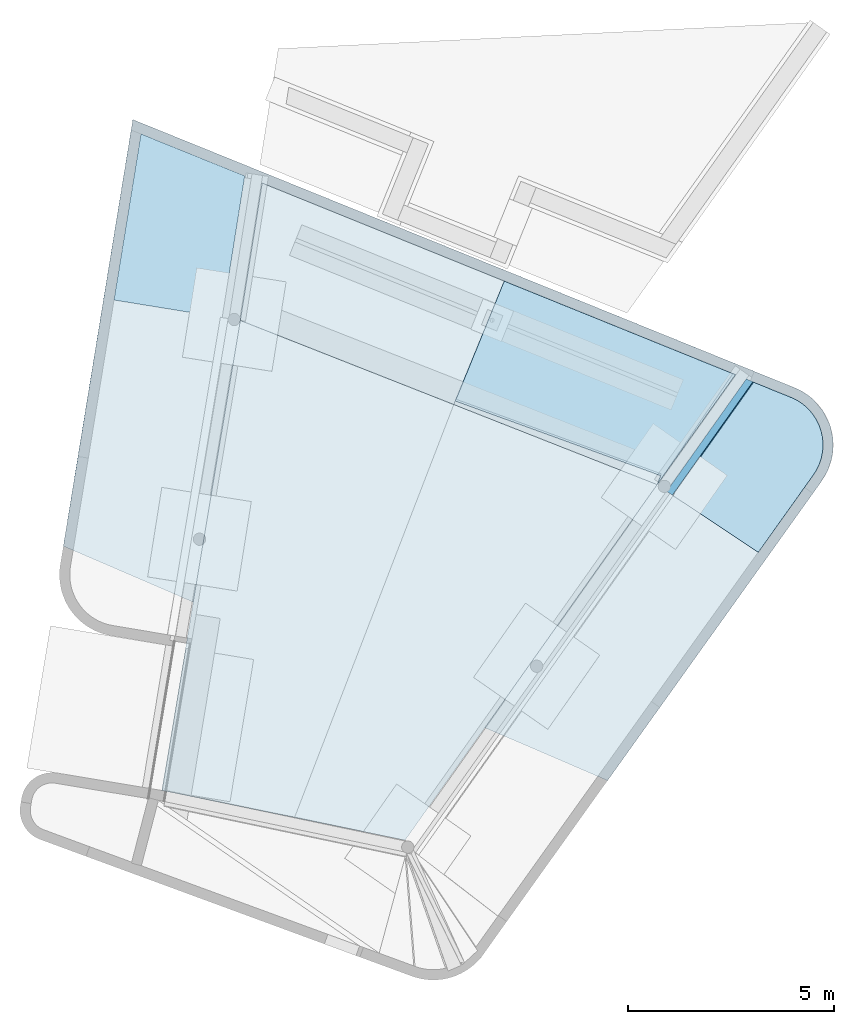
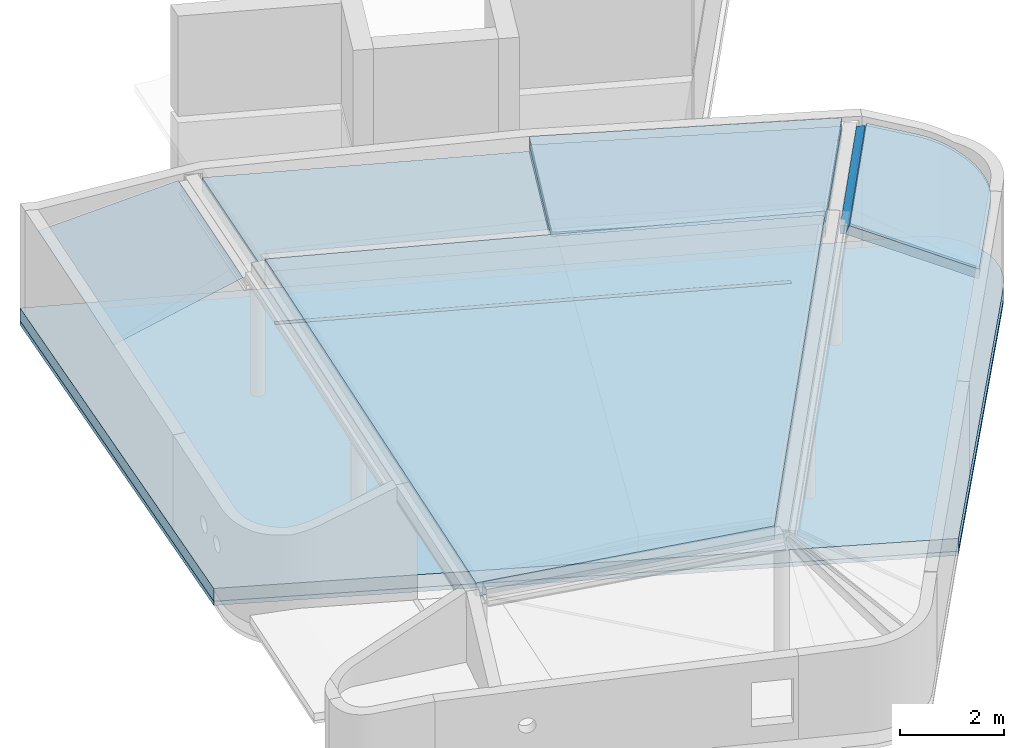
# One storey, part 5 of 8: 9 plates, 5 slabs.
"""IFC2X3 building model written with IfcOpenShell, lengths in millimetres."""

from ifc_helpers import new_model, si_unit, frame, origin_with_axes, place, context, subcontext, project, spatial, faceted_brep, material, type_object, element, save


model = new_model("IFC2X3")

# Units and contexts
model_context = context("Model", 3, precision=1e-05, world=origin_with_axes())
body_context = subcontext(model_context, "Body", "Model", "MODEL_VIEW")
ifc_project = project(units=[si_unit("LENGTHUNIT", "METRE", prefix="MILLI"), si_unit("AREAUNIT", "SQUARE_METRE"), si_unit("VOLUMEUNIT", "CUBIC_METRE"), si_unit("MASSUNIT", "GRAM", prefix="KILO"), si_unit("TIMEUNIT", "SECOND"), si_unit("PLANEANGLEUNIT", "RADIAN"), si_unit("SOLIDANGLEUNIT", "STERADIAN"), si_unit("THERMODYNAMICTEMPERATUREUNIT", "DEGREE_CELSIUS"), si_unit("LUMINOUSINTENSITYUNIT", "LUMEN")], contexts=[model_context])

# Site, building, storey
site_placement = place(None, origin_with_axes())
site = spatial("IfcSite", under=ifc_project, at=site_placement, Name="Site", CompositionType="ELEMENT")
building_placement = place(site_placement, origin_with_axes())
building = spatial("IfcBuilding", under=site, at=building_placement, Name="Undefined", CompositionType="ELEMENT")
storey_placement = place(building_placement, origin_with_axes())
storey = spatial("IfcBuildingStorey", under=building, at=storey_placement, Name="Undefined", CompositionType="ELEMENT", Elevation=0.0)

# Plates
ifc_material_1 = material(Name="MISCELLANEOUS/XPS")
plate_type_1 = type_object("IfcPlateType", Name="50*2664", PredefinedType="NOTDEFINED")
plate_1_placement = place(storey_placement, frame((57656.6338167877, 50913.6681243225, 38502.8279849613), z_axis=(-0.573609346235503, -0.819127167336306, -0.00173252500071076), x_axis=(-0.769423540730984, 0.53807546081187, 0.344183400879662)))
element("IfcPlate", 1, at=plate_1_placement, inside=storey, type_object=plate_type_1, material=ifc_material_1, Name="ISOLASJON", ObjectType="50*2664", context=body_context, shape_type="Brep", body=[
    faceted_brep([(239.358615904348, 25.0000000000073, 693.166004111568), (196.58587224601, 25.0, 773.998159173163), (160.133426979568, 25.0, 857.513161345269), (130.191240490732, 25.0000000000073, 943.27579861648), (106.915347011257, 25.0, 1030.83914613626), (90.4270414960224, 25.0, 1119.74689522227), (80.8122475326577, 25.0, 1209.53573126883), (78.1210695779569, 25.0, 1299.73774816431), (98.020196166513, 25.0000000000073, 3607.19421805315), (2756.47631908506, 25.0, 3665.95336914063), (2735.94284649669, 25.0000000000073, 291.999741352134), (1708.0233133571, 25.0, 70.4895102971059), (1613.64722315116, 25.0, 53.494195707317), (1518.20686443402, 25.0000000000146, 42.9364066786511), (1422.19959444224, 25.0, 38.8711617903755), (1326.12572468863, 25.0, 41.3196457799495), (1230.48591374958, 25.0, 50.2690991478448), (1135.77855824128, 25.0, 65.6728846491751), (1042.49719558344, 25.0, 87.4507303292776), (951.12793208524, 25.0, 115.489147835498), (862.146909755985, 25.0, 149.642023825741), (776.017825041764, 25.0, 189.731381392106), (693.189512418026, 25.0, 235.548307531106), (614.093605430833, 25.0, 286.854041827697), (539.142287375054, 25.0, 343.381220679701), (468.726143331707, 25.0, 404.835270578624), (403.212124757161, 25.0, 470.895943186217), (342.941637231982, 25.0, 541.218984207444), (288.228761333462, 25.0, 615.437927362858), (2756.47631908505, -24.9999999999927, 3665.95336914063), (116.353546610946, -24.9999999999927, 3607.59943523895), (487.055203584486, -24.9999999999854, 404.743007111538), (557.471347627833, -24.9999999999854, 343.288957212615), (632.42266568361, -24.9999999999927, 286.761778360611), (711.518572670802, -24.9999999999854, 235.45604406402), (794.34688529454, -24.9999999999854, 189.63911792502), (880.475970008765, -24.9999999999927, 149.549760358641), (969.456992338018, -24.9999999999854, 115.396884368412), (1060.82625583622, -24.9999999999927, 87.3584668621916), (1154.10761849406, -24.9999999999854, 65.5806211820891), (1248.81497400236, -24.9999999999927, 50.1768356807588), (1344.45478494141, -24.9999999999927, 41.2273823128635), (1440.52865469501, -24.9999999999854, 38.7788983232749), (1536.5359246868, -25.0, 42.8441432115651), (1631.97628340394, -24.9999999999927, 53.401932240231), (1726.35237360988, -24.9999999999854, 70.3972468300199), (2735.91821469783, -24.9999999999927, 287.952372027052), (96.4501298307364, -24.9999999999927, 1299.64548469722), (99.1413077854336, -24.9999999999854, 1209.44346780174), (108.756101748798, -24.9999999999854, 1119.65463175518), (125.244407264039, -24.9999999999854, 1030.74688266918), (148.520300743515, -24.9999999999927, 943.183535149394), (178.462487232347, -24.9999999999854, 857.420897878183), (214.91493249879, -24.9999999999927, 773.905895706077), (257.687676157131, -24.9999999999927, 693.073740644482), (306.55782158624, -24.9999999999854, 615.345663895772), (361.270697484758, -24.9999999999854, 541.126720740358), (421.541185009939, -24.9999999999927, 470.803679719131)], [[[0, 1, 2, 3, 4, 5, 6, 7, 8, 9, 10, 11, 12, 13, 14, 15, 16, 17, 18, 19, 20, 21, 22, 23, 24, 25, 26, 27, 28]], [[29, 9, 8, 30]], [[31, 32, 33, 34, 35, 36, 37, 38, 39, 40, 41, 42, 43, 44, 45, 46, 29, 30, 47, 48, 49, 50, 51, 52, 53, 54, 55, 56, 57]], [[9, 29, 46, 10]], [[45, 11, 10, 46]], [[44, 12, 11, 45]], [[43, 13, 12, 44]], [[42, 14, 13, 43]], [[41, 15, 14, 42]], [[40, 16, 15, 41]], [[39, 17, 16, 40]], [[38, 18, 17, 39]], [[37, 19, 18, 38]], [[36, 20, 19, 37]], [[35, 21, 20, 36]], [[34, 22, 21, 35]], [[33, 23, 22, 34]], [[32, 24, 23, 33]], [[31, 25, 24, 32]], [[57, 26, 25, 31]], [[56, 27, 26, 57]], [[55, 28, 27, 56]], [[54, 0, 28, 55]], [[53, 1, 0, 54]], [[52, 2, 1, 53]], [[51, 3, 2, 52]], [[50, 4, 3, 51]], [[49, 5, 4, 50]], [[48, 6, 5, 49]], [[47, 7, 6, 48]], [[30, 8, 7, 47]]]),
])
ifc_material_2 = material(Name="MISCELLANEOUS/Misc_Undefined")
plate_type_2 = type_object("IfcPlateType", Name="0.5*2664", PredefinedType="NOTDEFINED")
plate_2_placement = place(storey_placement, frame((57649.6791225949, 50918.5874308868, 38479.5901892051), z_axis=(-0.573609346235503, -0.819127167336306, -0.00173252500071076), x_axis=(-0.769423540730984, 0.53807546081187, 0.344183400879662)))
element("IfcPlate", 2, at=plate_2_placement, inside=storey, type_object=plate_type_2, material=ifc_material_2, Name="MEMBRAN", ObjectType="0.5*2664", context=body_context, shape_type="Brep", body=[
    faceted_brep([(239.35861589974, 0.249999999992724, 693.16600411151), (196.585872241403, 0.249999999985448, 773.998159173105), (160.133426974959, 0.249999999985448, 857.513161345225), (130.191240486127, 0.249999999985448, 943.275798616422), (106.91534700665, 0.249999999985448, 1030.8391461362), (90.4270414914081, 0.249999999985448, 1119.74689522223), (80.812247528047, 0.249999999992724, 1209.53573126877), (78.121069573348, 0.249999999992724, 1299.73774816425), (98.0201961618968, 0.249999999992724, 3607.19421805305), (2756.47631908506, 0.249999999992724, 3665.95336914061), (2735.94284649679, 0.25, 291.999741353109), (1708.02331335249, 0.249999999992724, 70.4895102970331), (1613.64722314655, 0.249999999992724, 53.4941957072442), (1518.20686442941, 0.249999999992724, 42.9364066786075), (1422.19959443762, 0.249999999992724, 38.8711617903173), (1326.12572468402, 0.249999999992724, 41.3196457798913), (1230.48591374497, 0.249999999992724, 50.2690991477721), (1135.77855823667, 0.249999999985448, 65.6728846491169), (1042.49719557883, 0.249999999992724, 87.4507303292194), (951.127932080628, 0.249999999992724, 115.48914783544), (862.146909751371, 0.249999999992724, 149.642023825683), (776.017825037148, 0.249999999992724, 189.731381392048), (693.18951241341, 0.249999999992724, 235.548307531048), (614.093605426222, 0.249999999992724, 286.854041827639), (539.142287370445, 0.249999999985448, 343.381220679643), (468.726143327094, 0.249999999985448, 404.835270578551), (403.212124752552, 0.249999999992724, 470.895943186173), (342.941637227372, 0.249999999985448, 541.2189842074), (288.22876132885, 0.249999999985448, 615.4379273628), (2756.47631908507, -0.25, 3665.95336914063), (98.2035296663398, -0.250000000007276, 3607.19827022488), (468.909433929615, -0.249999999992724, 404.834347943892), (539.325577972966, -0.249999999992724, 343.380298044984), (614.276896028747, -0.250000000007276, 286.853119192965), (693.372803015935, -0.249999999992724, 235.547384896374), (776.201115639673, -0.249999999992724, 189.730458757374), (862.330200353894, -0.249999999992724, 149.64110119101), (951.311222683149, -0.249999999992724, 115.488225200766), (1042.68048618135, -0.249999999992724, 87.4498076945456), (1135.96184883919, -0.25, 65.6719620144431), (1230.66920434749, -0.249999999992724, 50.2681765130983), (1326.30901528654, -0.249999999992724, 41.3187231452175), (1422.38288504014, -0.249999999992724, 38.8702391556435), (1518.39015503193, -0.249999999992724, 42.9354840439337), (1613.83051374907, -0.249999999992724, 53.493273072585), (1708.20660395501, -0.249999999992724, 70.4885876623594), (2735.94260017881, -0.250000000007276, 291.95926765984), (78.3043601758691, -0.249999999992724, 1299.73682552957), (80.9955381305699, -0.249999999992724, 1209.5348086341), (90.6103320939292, -0.249999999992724, 1119.74597258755), (107.098637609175, -0.25, 1030.83822350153), (130.374531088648, -0.249999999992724, 943.274875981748), (160.31671757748, -0.249999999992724, 857.512238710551), (196.769162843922, -0.249999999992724, 773.997236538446), (239.541906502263, -0.249999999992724, 693.165081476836), (288.412051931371, -0.249999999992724, 615.437004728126), (343.124927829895, -0.25, 541.218061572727), (403.395415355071, -0.249999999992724, 470.895020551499)], [[[0, 1, 2, 3, 4, 5, 6, 7, 8, 9, 10, 11, 12, 13, 14, 15, 16, 17, 18, 19, 20, 21, 22, 23, 24, 25, 26, 27, 28]], [[29, 9, 8, 30]], [[31, 32, 33, 34, 35, 36, 37, 38, 39, 40, 41, 42, 43, 44, 45, 46, 29, 30, 47, 48, 49, 50, 51, 52, 53, 54, 55, 56, 57]], [[9, 29, 46, 10]], [[45, 11, 10, 46]], [[44, 12, 11, 45]], [[43, 13, 12, 44]], [[42, 14, 13, 43]], [[41, 15, 14, 42]], [[40, 16, 15, 41]], [[39, 17, 16, 40]], [[38, 18, 17, 39]], [[37, 19, 18, 38]], [[36, 20, 19, 37]], [[35, 21, 20, 36]], [[34, 22, 21, 35]], [[33, 23, 22, 34]], [[32, 24, 23, 33]], [[31, 25, 24, 32]], [[57, 26, 25, 31]], [[56, 27, 26, 57]], [[55, 28, 27, 56]], [[54, 0, 28, 55]], [[53, 1, 0, 54]], [[52, 2, 1, 53]], [[51, 3, 2, 52]], [[50, 4, 3, 51]], [[49, 5, 4, 50]], [[48, 6, 5, 49]], [[47, 7, 6, 48]], [[30, 8, 7, 47]]]),
])

# Slab
ifc_material_3 = material(Name="CONCRETE/C35/45")
slab_type_1 = type_object("IfcSlabType", Name="220*2730", PredefinedType="NOTDEFINED")
slab_1_placement = place(storey_placement, frame((57618.699121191, 50940.5007055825, 38376.076371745), z_axis=(-0.573609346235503, -0.819127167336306, -0.00173252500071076), x_axis=(-0.769423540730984, 0.53807546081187, 0.344183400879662)))
element("IfcSlab", 3, at=slab_1_placement, inside=storey, type_object=slab_type_1, material=ifc_material_3, Name="PLASSTØPTDEKKE", ObjectType="220*2730", PredefinedType="FLOOR", context=body_context, shape_type="Brep", body=[
    faceted_brep([(158.71075076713, 109.999999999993, 693.571963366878), (115.938007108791, 109.999999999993, 774.404118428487), (79.4855618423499, 109.999999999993, 857.919120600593), (49.5433753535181, 109.999999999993, 943.681757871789), (26.2674818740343, 109.999999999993, 1031.24510539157), (10.4411006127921, 109.999999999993, 1116.58364626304), (33.7173469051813, 109.999999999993, 3605.77294921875), (2756.47631908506, 109.999999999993, 3665.95336914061), (2736.05122641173, 109.999999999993, 309.808166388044), (1627.37544821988, 109.999999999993, 70.8954695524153), (1532.99935801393, 110.0, 53.9001549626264), (1437.5589992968, 109.999999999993, 43.3423659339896), (1341.55172930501, 109.999999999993, 39.2771210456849), (1245.4778595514, 110.0, 41.7256050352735), (1149.83804861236, 109.999999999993, 50.6750584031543), (1055.13069310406, 109.999999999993, 66.0788439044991), (961.849330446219, 109.999999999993, 87.8566895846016), (870.480066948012, 109.999999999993, 115.895107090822), (781.499044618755, 110.0, 150.047983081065), (695.369959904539, 109.999999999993, 190.137340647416), (612.541647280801, 109.999999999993, 235.954266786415), (533.445740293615, 109.999999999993, 287.260001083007), (458.494422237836, 109.999999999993, 343.787179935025), (388.078278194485, 109.999999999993, 405.241229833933), (322.564259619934, 109.999999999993, 471.301902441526), (262.293772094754, 109.999999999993, 541.624943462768), (207.580896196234, 109.999999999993, 615.843886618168), (11.313560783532, 79.5860610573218, 1209.88556861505), (12.1568675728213, 69.9443099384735, 1300.06979388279), (33.7173469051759, 65.3712433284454, 3605.77294921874), (10.474443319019, 108.103375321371, 1120.14935469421), (2756.47631908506, -110.0, 3665.95336914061), (98.0201961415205, -110.000000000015, 3607.19421805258), (468.726143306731, -110.000000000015, 404.835270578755), (539.142287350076, -110.0, 343.381220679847), (614.093605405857, -110.000000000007, 286.854041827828), (693.189512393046, -110.000000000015, 235.548307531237), (776.017825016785, -110.000000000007, 189.731381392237), (862.146909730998, -110.000000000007, 149.642023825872), (951.127932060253, -110.000000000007, 115.489147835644), (1042.49719555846, -110.000000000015, 87.4507303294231), (1135.7785582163, -110.000000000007, 65.6728846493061), (1230.4859137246, -110.000000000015, 50.2690991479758), (1326.12572466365, -110.000000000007, 41.319645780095), (1422.19959441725, -110.000000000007, 38.8711617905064), (1518.20686440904, -110.000000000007, 42.9364066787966), (1613.64722312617, -110.000000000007, 53.4941957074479), (1708.02331333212, -110.0, 70.4895102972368), (2735.94284649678, -110.000000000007, 291.999741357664), (78.1210695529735, -110.000000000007, 1299.73774816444), (80.8122475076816, -110.000000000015, 1209.53573126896), (90.4270414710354, -110.000000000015, 1119.7468952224), (106.915346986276, -110.000000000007, 1030.83914613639), (130.19124046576, -110.000000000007, 943.275798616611), (160.133426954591, -110.000000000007, 857.513161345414), (196.585872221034, -110.000000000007, 773.998159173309), (239.358615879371, -110.000000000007, 693.166004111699), (288.228761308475, -110.000000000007, 615.437927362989), (342.941637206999, -110.000000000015, 541.21898420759), (403.212124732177, -110.000000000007, 470.895943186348)], [[[0, 1, 2, 3, 4, 5, 6, 7, 8, 9, 10, 11, 12, 13, 14, 15, 16, 17, 18, 19, 20, 21, 22, 23, 24, 25, 26]], [[27, 28, 29, 6, 5, 30]], [[31, 7, 6, 29, 32]], [[33, 34, 35, 36, 37, 38, 39, 40, 41, 42, 43, 44, 45, 46, 47, 48, 31, 32, 49, 50, 51, 52, 53, 54, 55, 56, 57, 58, 59]], [[7, 31, 48, 8]], [[47, 9, 8, 48]], [[46, 10, 9, 47]], [[45, 11, 10, 46]], [[44, 12, 11, 45]], [[43, 13, 12, 44]], [[42, 14, 13, 43]], [[41, 15, 14, 42]], [[40, 16, 15, 41]], [[39, 17, 16, 40]], [[38, 18, 17, 39]], [[37, 19, 18, 38]], [[36, 20, 19, 37]], [[35, 21, 20, 36]], [[34, 22, 21, 35]], [[33, 23, 22, 34]], [[59, 24, 23, 33]], [[58, 25, 24, 59]], [[57, 26, 25, 58]], [[56, 0, 26, 57]], [[55, 1, 0, 56]], [[54, 2, 1, 55]], [[53, 3, 2, 54]], [[52, 4, 3, 53]], [[51, 30, 5, 4, 52]], [[50, 27, 30, 51]], [[49, 28, 27, 50]], [[32, 29, 28, 49]]]),
])

# Plates
plate_type_3 = type_object("IfcPlateType", Name="0.5*2815", PredefinedType="NOTDEFINED")
plate_3_placement = place(storey_placement, frame((42489.0921847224, 53715.1464561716, 39415.2362570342), z_axis=(-0.933283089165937, 0.148529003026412, -0.326989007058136), x_axis=(0.157172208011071, 0.987571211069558, -9.77400000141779e-06)))
element("IfcPlate", 4, at=plate_3_placement, inside=storey, type_object=plate_type_3, material=ifc_material_2, Name="MEMBRAN", ObjectType="0.5*2815", context=body_context, shape_type="Brep", body=[
    faceted_brep([(0.0, -0.249999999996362, -7.27595761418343e-12), (8.53363636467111, -0.250000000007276, 2814.62060546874), (8.53363636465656, 0.249999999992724, 2814.62060546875), (0.0, 0.249999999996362, 0.0), (3482.5016497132, -0.25, -8.97125573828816e-09), (4091.9975598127, -0.250000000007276, 2800.26733398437), (4091.99755981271, 0.249999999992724, 2800.26733398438), (3482.46399733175, 0.249999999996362, -8.97125573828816e-09)], [[[0, 1, 2, 3]], [[1, 0, 4, 5]], [[2, 1, 5, 6]], [[3, 2, 6, 7]], [[0, 3, 7, 4]], [[6, 5, 4, 7]]]),
])
plate_type_4 = type_object("IfcPlateType", Name="100*10545", PredefinedType="NOTDEFINED")
plate_4_placement = place(storey_placement, frame((51844.2864651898, 42475.0948567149, 36500.0), z_axis=(-0.813358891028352, 0.581762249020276, 0.0), x_axis=(0.581762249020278, 0.81335889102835, 0.0)))
element("IfcPlate", 5, at=plate_4_placement, inside=storey, type_object=plate_type_4, material=ifc_material_1, Name="ISOLASJON", ObjectType="100*10545", context=body_context, shape_type="Brep", body=[
    faceted_brep([(-3056.6535644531, -50.0, 14055.1083984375), (-7.27595761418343e-12, -50.0, -7.27595761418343e-12), (6348.25830078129, 250.0, 18707.73828125), (10348.080078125, 250.0, 2070.51269531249), (10425.591796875, 250.0, 1719.47070312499), (10441.419921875, 250.0, 1494.39111328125), (10430.3515625, 250.0, 1312.71545410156), (10336.01953125, 250.0, 949.208984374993), (10154.6728515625, 250.0, 617.871520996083), (9936.64941406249, 250.0, 378.077667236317), (9764.78906249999, 250.0, 246.748214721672), (8571.06347656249, 250.0, -1.11576810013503e-08), (8862.2783203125, 250.0, 0.893784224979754), (9525.98828124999, 250.0, 120.42943572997), (9215.78808593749, 250.0, 27.2791919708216), (9215.78808593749, 350.0, 27.2791919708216), (8862.2783203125, 350.0, 0.893784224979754), (9525.98828124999, 350.0, 120.42943572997), (9764.78906249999, 350.0, 246.748214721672), (8571.06347656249, 350.0, -1.11576810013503e-08), (9936.64941406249, 350.0, 378.077667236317), (10154.6728515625, 350.0, 617.871520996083), (10336.01953125, 350.0, 949.208984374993), (10430.3515625, 350.0, 1312.71545410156), (10441.419921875, 350.0, 1494.39111328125), (10425.591796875, 350.0, 1719.47070312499), (10348.080078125, 350.0, 2070.51269531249), (-7.27595761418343e-12, 50.0, -7.27595761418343e-12), (-3056.6535644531, 50.0, 14055.1083984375), (6348.25830078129, 350.0, 18707.73828125)], [[[0, 1, 2]], [[3, 2, 1]], [[4, 3, 1]], [[5, 4, 1]], [[6, 5, 1]], [[7, 6, 1]], [[8, 7, 1]], [[9, 8, 1]], [[10, 9, 11]], [[12, 10, 11]], [[13, 10, 12]], [[14, 13, 12]], [[15, 16, 17]], [[18, 17, 16]], [[19, 18, 16]], [[20, 18, 19]], [[21, 20, 19]], [[22, 21, 19]], [[23, 22, 19]], [[24, 23, 19]], [[25, 24, 19]], [[26, 25, 19]], [[27, 26, 19]], [[28, 26, 27]], [[1, 0, 28, 27]], [[0, 2, 29, 28]], [[2, 3, 26, 29]], [[3, 4, 25, 26]], [[4, 5, 24, 25]], [[5, 6, 23, 24]], [[6, 7, 22, 23]], [[7, 8, 21, 22]], [[8, 9, 20, 21]], [[9, 10, 18, 20]], [[10, 13, 17, 18]], [[13, 14, 15, 17]], [[14, 12, 16, 15]], [[12, 11, 19, 16]], [[11, 1, 27, 19]], [[29, 26, 28]], [[11, 9, 1]]]),
])
plate_type_5 = type_object("IfcPlateType", Name="0.5*3189", PredefinedType="NOTDEFINED")
plate_5_placement = place(storey_placement, frame((49336.8097267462, 54600.4991350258, 39590.2500057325), z_axis=(0.925646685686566, -0.378388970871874, 1.00000033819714e-09), x_axis=(-0.378388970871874, -0.925646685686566, 0.0)))
element("IfcPlate", 6, at=plate_5_placement, inside=storey, type_object=plate_type_5, material=ifc_material_2, Name="MEMBRAN", ObjectType="0.5*3189", context=body_context, shape_type="Brep", body=[
    faceted_brep([(2888.92952641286, 148.530829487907, 5301.76093440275), (2889.39555098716, 148.033694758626, 5301.76698168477), (2905.15289801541, 137.280963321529, 4864.36899430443), (3097.22059936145, -0.25, -1.22818164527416e-08), (3096.75180989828, 0.25, -1.22781784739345e-08), (2904.71317955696, 137.760146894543, 4863.63273259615), (3168.54418945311, 150.25, 5305.3896484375), (3168.54418945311, 149.75, 5305.38964843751), (0.0, -0.249999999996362, -7.27595761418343e-12), (-23.5448474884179, 149.75, 6055.55273437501), (-23.5448474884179, 150.25, 6055.552734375), (0.0, 0.249999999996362, 0.0)], [[[0, 1, 2, 3, 4, 5]], [[6, 7, 1, 0]], [[8, 9, 10, 11]], [[11, 5, 4]], [[8, 11, 4, 3]], [[8, 3, 2]], [[9, 8, 2, 1, 7]], [[10, 9, 7, 6]], [[11, 10, 6, 0, 5]]]),
])
plate_type_6 = type_object("IfcPlateType", Name="50*3189", PredefinedType="NOTDEFINED")
plate_6_placement = place(storey_placement, frame((49336.8097267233, 54600.4991350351, 39665.0000057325), z_axis=(0.925646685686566, -0.378388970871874, 1.00000033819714e-09), x_axis=(-0.378388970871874, -0.925646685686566, 0.0)))
element("IfcPlate", 7, at=plate_6_placement, inside=storey, type_object=plate_type_6, material=ifc_material_2, Name="DRENSLAG", ObjectType="50*3189", context=body_context, shape_type="Brep", body=[
    faceted_brep([(-23.5448474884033, 175.0, 6055.55273437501), (-23.5448474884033, 125.0, 6055.55273437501), (3168.54418945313, 125.0, 5305.38964843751), (3168.54418945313, 175.0, 5305.38964843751), (0.0, -25.0000000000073, 0.0), (0.0, 24.9999999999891, -7.27595761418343e-12), (3096.75180989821, 25.0, -1.22818164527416e-08), (3143.63075621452, -25.0, -1.24637153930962e-08), (2948.68502540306, 114.591789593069, 4937.25890342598), (2935.53198384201, 123.567356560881, 5302.36566260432), (2969.78305290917, 123.777944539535, 5302.81016613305), (2920.09274893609, 173.472432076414, 5302.16535676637), (2888.92952641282, 173.280829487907, 5301.76093440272), (2904.71317955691, 162.510146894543, 4863.63273259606)], [[[0, 1, 2, 3]], [[4, 1, 0, 5]], [[4, 5, 6, 7]], [[4, 7, 8]], [[2, 1, 4, 8, 9, 10]], [[11, 3, 2, 10, 9, 12]], [[5, 0, 3, 11, 12, 13]], [[5, 13, 6]], [[12, 9, 8, 7, 6, 13]]]),
])
plate_7_placement = place(storey_placement, frame((49336.8097267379, 54600.4991350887, 39615.0000057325), z_axis=(0.925646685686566, -0.378388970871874, 1.00000033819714e-09), x_axis=(-0.378388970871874, -0.925646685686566, 0.0)))
element("IfcPlate", 8, at=plate_7_placement, inside=storey, type_object=plate_type_6, material=ifc_material_1, Name="ISOLASJON", ObjectType="50*3189", context=body_context, shape_type="Brep", body=[
    faceted_brep([(2888.92952641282, 173.280829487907, 5301.76093440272), (2935.53198384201, 123.567356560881, 5302.36566260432), (2948.68502540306, 114.591789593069, 4937.25890342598), (3143.63075621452, -25.0, -1.24637153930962e-08), (3096.75180989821, 25.0, -1.22818164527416e-08), (2904.71317955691, 162.510146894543, 4863.63273259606), (3168.54418945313, 175.0, 5305.38964843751), (3168.54418945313, 125.0, 5305.38964843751), (0.0, -25.0000000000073, 0.0), (-23.5448474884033, 125.0, 6055.55273437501), (-23.5448474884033, 175.0, 6055.55273437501), (0.0, 24.9999999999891, -7.27595761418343e-12)], [[[0, 1, 2, 3, 4, 5]], [[6, 7, 1, 0]], [[8, 9, 10, 11]], [[11, 5, 4]], [[8, 11, 4, 3]], [[8, 3, 2]], [[9, 8, 2, 1, 7]], [[10, 9, 7, 6]], [[11, 10, 6, 0, 5]]]),
])
plate_type_7 = type_object("IfcPlateType", Name="100*3237", PredefinedType="NOTDEFINED")
plate_8_placement = place(storey_placement, frame((49336.8097267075, 54600.4991350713, 39740.0000057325), z_axis=(0.925646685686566, -0.378388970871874, 1.00000033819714e-09), x_axis=(-0.378388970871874, -0.925646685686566, 0.0)))
element("IfcPlate", 9, at=plate_8_placement, inside=storey, type_object=plate_type_7, material=ifc_material_2, Name="VEKSTLAG", ObjectType="100*3237", context=body_context, shape_type="Brep", body=[
    faceted_brep([(-23.5448474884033, 100.0, 6055.55273437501), (-7.27595761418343e-12, -50.0, -7.27595761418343e-12), (3168.54418945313, 100.0, 5305.38964843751), (3237.478515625, 50.0, 8.9567038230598e-09), (-7.27595761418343e-12, 50.0, -7.27595761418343e-12), (3168.54418945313, 200.0, 5305.38964843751), (-23.5448474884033, 200.0, 6055.552734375), (3237.478515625, -50.0, 8.9567038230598e-09)], [[[0, 1, 2]], [[3, 4, 5]], [[1, 0, 6, 4]], [[0, 2, 5, 6]], [[2, 7, 3, 5]], [[7, 1, 4, 3]], [[6, 5, 4]], [[7, 2, 1]]]),
])
plate_type_8 = type_object("IfcPlateType", Name="FIRKB167*200*100", PredefinedType="NOTDEFINED")
plate_9_placement = place(storey_placement, frame((53350.5476108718, 49452.2601422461, 39315.0), z_axis=(0.815793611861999, -0.578343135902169, 0.0), x_axis=(0.578343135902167, 0.815793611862, 0.0)))
element("IfcPlate", 10, at=plate_9_placement, inside=storey, type_object=plate_type_8, material=ifc_material_3, Name="PLASSTØPTDEKKE", ObjectType="FIRKB167*200*100", context=body_context, shape_type="Brep", body=[
    faceted_brep([(0.0, -100.0, -83.5000000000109), (0.0, 100.0, -83.5000000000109), (3338.00718184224, 100.0, -83.5000000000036), (3338.00718184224, -100.0, -83.5000000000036), (0.0, 100.0, 83.5), (3377.39655753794, 100.0, 83.4999999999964), (0.0, -100.0, 16.4999999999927), (3361.59363435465, -100.0, 16.4999999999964)], [[[0, 1, 2, 3]], [[1, 4, 5, 2]], [[4, 6, 7, 5]], [[6, 0, 3, 7]], [[5, 7, 3, 2]], [[6, 4, 1, 0]]]),
])

# Slabs
ifc_material_4 = material(Name="CONCRETE/C45/55")
slab_type_2 = type_object("IfcSlabType", Name="300*10545", PredefinedType="NOTDEFINED")
slab_2_placement = place(storey_placement, frame((51844.2864651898, 42475.0948567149, 36700.0), z_axis=(-0.813358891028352, 0.581762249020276, 0.0), x_axis=(0.581762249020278, 0.81335889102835, 0.0)))
element("IfcSlab", 11, at=slab_2_placement, inside=storey, type_object=slab_type_2, material=ifc_material_4, Name="PLASSTØPTFUNDAMENT", ObjectType="300*10545", PredefinedType="FLOOR", context=body_context, shape_type="Brep", body=[
    faceted_brep([(8992.01904659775, 425.675542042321, 4161.91381282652), (8992.01900040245, 400.016172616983, 4161.91400524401), (6657.26667238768, 400.093292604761, 13885.5398649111), (6657.26671859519, 425.759450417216, 13885.5396724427), (5879.37648028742, 400.093292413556, 13698.7596490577), (5879.37648426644, 402.303456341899, 13698.7596324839), (8213.1342325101, 402.219583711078, 3979.2759344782), (8214.12880830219, 400.016172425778, 3975.13378939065), (8214.12881227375, 402.222188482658, 3975.13377284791), (8216.99695045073, 402.306031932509, 3975.82244453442), (7489.67024906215, 400.053204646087, 8739.5491624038), (7500.62035167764, 400.053268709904, 8750.72112155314), (7507.58219288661, 400.053361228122, 8764.73005390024), (7509.87429916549, 400.053473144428, 8780.20466754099), (7507.27230318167, 400.053593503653, 8795.63019947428), (7500.03090643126, 400.053710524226, 8809.49669115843), (7488.85894728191, 400.053812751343, 8820.44679377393), (7474.85001493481, 400.0538901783, 8827.40863498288), (7459.37540129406, 400.053935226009, 8829.70074126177), (7443.94986936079, 400.053943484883, 8827.09874527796), (7430.08337767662, 400.053914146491, 8819.85734852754), (7419.13327506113, 400.053850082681, 8808.68538937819), (7412.17143385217, 400.05375756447, 8794.6764570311), (7409.87932757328, 400.053645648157, 8779.20184339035), (7412.48132355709, 400.053525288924, 8763.77631145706), (7419.72272030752, 400.053408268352, 8749.9098197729), (7430.89467945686, 400.053306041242, 8738.95971715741), (7444.90361180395, 400.053228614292, 8731.99787594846), (7460.3782254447, 400.053183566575, 8729.70576966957), (7475.80375737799, 400.053175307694, 8732.30776565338), (-3056.6535644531, -150.0, 14055.1083984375), (6348.25830078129, 150.0, 18707.73828125), (6348.25830078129, 450.0, 18707.73828125), (-3056.6535644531, 150.0, 14055.1083984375), (9764.78906249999, 150.0, 246.748214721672), (9936.64941406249, 150.0, 378.077667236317), (8571.06347656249, 150.0, -1.11322151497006e-08), (8862.2783203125, 150.0, 0.893784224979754), (9525.98828124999, 150.0, 120.42943572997), (9215.78808593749, 150.0, 27.2791919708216), (9215.78808593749, 450.0, 27.2791919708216), (9525.98828124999, 450.0, 120.42943572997), (9764.78906249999, 450.0, 246.748214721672), (9936.64941406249, 450.0, 378.077667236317), (10154.6728515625, 150.0, 617.871520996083), (10154.6728515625, 450.0, 617.871520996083), (10336.01953125, 150.0, 949.208984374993), (10336.01953125, 450.0, 949.208984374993), (10430.3515625, 150.0, 1312.71545410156), (10430.3515625, 450.0, 1312.71545410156), (10441.419921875, 150.0, 1494.39111328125), (10441.419921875, 450.0, 1494.39111328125), (10425.591796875, 150.0, 1719.47070312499), (10425.591796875, 450.0, 1719.47070312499), (10348.080078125, 150.0, 2070.51269531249), (7.27595761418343e-12, -150.0, 7.27595761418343e-12), (7.27595761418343e-12, 150.0, 7.27595761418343e-12), (10348.080078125, 450.0, 2070.51269531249), (8571.06347656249, 450.0, -1.11322151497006e-08), (8862.2783203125, 450.0, 0.893784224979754), (6219.70344577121, 113.67818846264, 13780.4759666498), (6316.9397249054, 116.523034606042, 13803.8234722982), (8651.69205292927, 116.441620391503, 4080.19761259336), (8554.45577379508, 113.596774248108, 4056.85010694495), (6219.70361935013, 210.093292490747, 13780.4752436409), (6316.93989336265, 210.093292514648, 13803.8227706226), (8651.69222139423, 210.01617252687, 4080.19691088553), (8554.45594738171, 210.016172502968, 4056.84938390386), (7430.02334206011, 170.0, 8739.81375124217), (7419.72272030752, 170.0, 8749.9098197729), (7412.48132355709, 170.0, 8763.77631145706), (7409.87932757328, 170.0, 8779.20184339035), (7412.17143385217, 170.0, 8794.6764570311), (7415.32601217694, 170.0, 8801.02424248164), (7415.32601217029, 210.053799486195, 8801.02424246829), (7430.02334204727, 210.053314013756, 8739.81375125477), (7460.3782254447, 210.053183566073, 8729.70576966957), (7444.90361180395, 210.053228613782, 8731.99787594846), (7430.89467945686, 210.05330604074, 8738.95971715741), (7419.13327506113, 210.053850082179, 8808.68538937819), (7430.08337767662, 210.053914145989, 8819.85734852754), (7443.94986936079, 210.053943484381, 8827.09874527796), (7459.37540129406, 210.0539352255, 8829.70074126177), (7474.85001493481, 210.053890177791, 8827.40863498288), (7488.85894728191, 210.053812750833, 8820.44679377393), (7500.03090643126, 210.053710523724, 8809.49669115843), (7507.27230318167, 210.053593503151, 8795.63019947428), (7509.87429916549, 210.053473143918, 8780.20466754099), (7507.58219288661, 210.053361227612, 8764.73005390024), (7500.62035167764, 210.053268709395, 8750.72112155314), (7489.67024906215, 210.053204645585, 8739.5491624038), (7475.80375737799, 210.053175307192, 8732.30776565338)], [[[0, 1, 2, 3]], [[3, 2, 4, 5]], [[6, 5, 4, 7, 8]], [[9, 8, 7, 1, 0]], [[4, 2, 1, 7], [10, 11, 12, 13, 14, 15, 16, 17, 18, 19, 20, 21, 22, 23, 24, 25, 26, 27, 28, 29]], [[30, 31, 32, 33]], [[34, 35, 36]], [[37, 34, 36]], [[38, 34, 37]], [[39, 38, 37]], [[38, 39, 40, 41]], [[34, 38, 41, 42]], [[35, 34, 42, 43]], [[44, 35, 43, 45]], [[46, 44, 45, 47]], [[48, 46, 47, 49]], [[50, 48, 49, 51]], [[52, 50, 51, 53]], [[52, 54, 55]], [[50, 52, 55]], [[48, 50, 55]], [[46, 48, 55]], [[44, 46, 55]], [[35, 44, 55]], [[36, 35, 55]], [[56, 57, 58]], [[36, 55, 56, 58]], [[37, 36, 58, 59]], [[39, 37, 59, 40]], [[40, 59, 41]], [[42, 41, 59]], [[58, 42, 59]], [[43, 42, 58]], [[45, 43, 58]], [[47, 45, 58]], [[49, 47, 58]], [[51, 49, 58]], [[53, 51, 58]], [[57, 53, 58]], [[54, 52, 53, 57]], [[31, 54, 57, 32]], [[5, 6, 33, 32, 57, 9, 0, 3]], [[57, 56, 33, 6, 8, 9]], [[55, 30, 33, 56]], [[30, 55, 31]], [[54, 31, 55], [60, 61, 62, 63]], [[60, 64, 65, 61]], [[61, 65, 66, 62]], [[62, 66, 67, 63]], [[68, 69, 70, 71, 72, 73]], [[74, 64, 60, 63, 67, 75, 68, 73]], [[76, 77, 78, 75, 67, 66, 65, 64, 74, 79, 80, 81, 82, 83, 84, 85, 86, 87, 88, 89, 90, 91]], [[91, 90, 10, 29]], [[76, 91, 29, 28]], [[77, 76, 28, 27]], [[78, 77, 27, 26]], [[69, 68, 75, 78, 26, 25]], [[70, 69, 25, 24]], [[71, 70, 24, 23]], [[72, 71, 23, 22]], [[79, 74, 73, 72, 22, 21]], [[80, 79, 21, 20]], [[81, 80, 20, 19]], [[82, 81, 19, 18]], [[83, 82, 18, 17]], [[84, 83, 17, 16]], [[85, 84, 16, 15]], [[86, 85, 15, 14]], [[87, 86, 14, 13]], [[88, 87, 13, 12]], [[89, 88, 12, 11]], [[90, 89, 11, 10]]]),
])
ifc_material_5 = material(Name="CONCRETE/C30/37")
slab_type_3 = type_object("IfcSlabType", Name="75*3184", PredefinedType="NOTDEFINED")
slab_3_placement = place(storey_placement, frame((48119.8038452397, 51600.6978503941, 39477.4999999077), z_axis=(0.366350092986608, 0.930477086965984, 0.0), x_axis=(0.930477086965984, -0.366350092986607, 0.0)))
element("IfcSlab", 12, at=slab_3_placement, inside=storey, type_object=slab_type_3, material=ifc_material_5, Name="PÅSTØP", ObjectType="75*3184", PredefinedType="FLOOR", context=body_context, shape_type="Brep", body=[
    faceted_brep([(5297.25967738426, 37.8260048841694, 281.555583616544), (5297.25968404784, 35.9073746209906, 279.756867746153), (4859.23825109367, 25.0177248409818, 269.546199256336), (1.45721003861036, -112.5, 140.605345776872), (2.91462382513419, 37.5, 281.23035107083), (533.080307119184, 37.5292178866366, 281.25970584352), (5297.2568359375, 37.8300000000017, 2.88127921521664e-09), (5297.2568359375, 37.5, 2.88127921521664e-09), (33.569976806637, -112.5, 3239.14746093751), (6020.849609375, 37.5, 3176.67407226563), (6020.849609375, 37.8300000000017, 3176.67407226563), (33.569976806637, 37.5, 3239.14746093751)], [[[0, 1, 2, 3, 4, 5]], [[6, 7, 1, 0]], [[8, 9, 10, 11]], [[11, 10, 5, 4]], [[8, 11, 4, 3]], [[8, 3, 2]], [[9, 8, 2, 1, 7]], [[10, 9, 7, 6]], [[10, 6, 0, 5]]]),
])
slab_type_4 = type_object("IfcSlabType", Name="320*10636", PredefinedType="NOTDEFINED")
slab_4_placement = place(storey_placement, frame((41021.7949906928, 42236.2538644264, 39579.9999945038), z_axis=(0.200528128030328, 0.979687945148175, 1.000000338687e-09), x_axis=(0.979687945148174, -0.200528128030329, -9.99999661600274e-10)))
element("IfcSlab", 13, at=slab_4_placement, inside=storey, type_object=slab_type_4, material=ifc_material_4, Name="HULLDEKKE", ObjectType="320*10636", PredefinedType="FLOOR", context=body_context, shape_type="Brep", body=[
    faceted_brep([(0.0, -159.999999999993, 7.27595761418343e-12), (-416.652526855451, -159.999999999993, 11558.4208984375), (-416.652526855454, 160.000000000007, 11558.4208984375), (0.0, 160.000000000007, 0.0), (10294.0166015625, -160.0, 9684.7490234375), (10294.0166015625, 160.0, 9684.7490234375), (6031.3125, -159.999999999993, -1.31913111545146e-08), (6031.3125, 160.000000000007, -1.31913111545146e-08)], [[[0, 1, 2, 3]], [[1, 4, 5, 2]], [[4, 6, 7, 5]], [[6, 0, 3, 7]], [[5, 7, 3, 2]], [[6, 4, 1, 0]]]),
])
slab_type_5 = type_object("IfcSlabType", Name="320*3291", PredefinedType="NOTDEFINED")
slab_5_placement = place(storey_placement, frame((42931.5939980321, 53644.6898987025, 39280.0000065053), z_axis=(0.366451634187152, 0.930437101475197, 1.00000033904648e-09), x_axis=(0.930437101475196, -0.366451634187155, -1.00000029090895e-09)))
element("IfcSlab", 14, at=slab_5_placement, inside=storey, type_object=slab_type_5, material=ifc_material_4, Name="HULLDEKKE", ObjectType="320*3291", PredefinedType="FLOOR", context=body_context, shape_type="Brep", body=[
    faceted_brep([(0.0, -159.999999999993, 7.27595761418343e-12), (-728.666015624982, -160.0, 3297.47021484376), (-728.666015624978, 160.0, 3297.47021484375), (0.0, 160.000000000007, 0.0), (11665.3330078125, -160.0, 3182.30200195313), (11665.3330078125, 160.0, 3182.30200195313), (10873.587890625, -160.0, -3.73402144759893e-08), (10873.587890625, 160.0, -3.73402144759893e-08)], [[[0, 1, 2, 3]], [[1, 4, 5, 2]], [[4, 6, 7, 5]], [[6, 0, 3, 7]], [[5, 7, 3, 2]], [[6, 4, 1, 0]]]),
])

save(model, "model.ifc")
